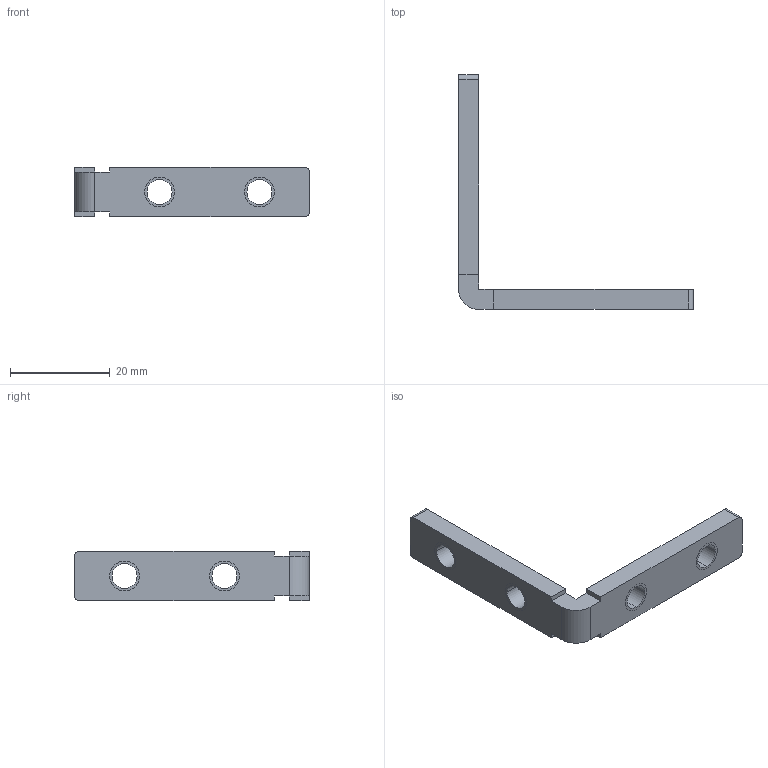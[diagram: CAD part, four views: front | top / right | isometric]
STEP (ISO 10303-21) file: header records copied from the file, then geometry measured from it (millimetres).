
FILE_DESCRIPTION (( 'STEP AP203' ), '1' );
FILE_NAME ('DIB3030.STEP', '2018-07-17T06:31:18', ( '' ), ( '' ), 'SwSTEP 2.0', 'SolidWorks 2012', '' );
FILE_SCHEMA (( 'CONFIG_CONTROL_DESIGN' ));
Length unit declared in the file: millimetre
Products named in the file (1): DIB3030
Bounding box: 47 x 47 x 10 mm (x, y, z)
Surface area: 2942.7 mm2 (no closed solid volume)
Topology: 0 solids, 5 shells, 45 faces, 129 edges, 86 vertices
Faces by surface type: cylinder 29, plane 16
Entity records: 1574 total; most frequent: DIRECTION 279, CARTESIAN_POINT 261, ORIENTED_EDGE 234, EDGE_CURVE 129, AXIS2_PLACEMENT_3D 104, VERTEX_POINT 86, VECTOR 71, LINE 71
